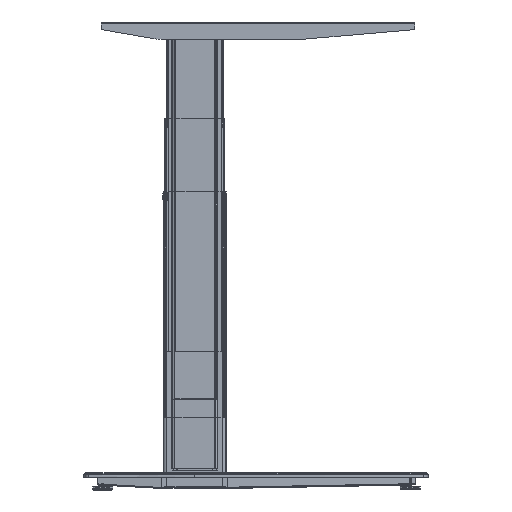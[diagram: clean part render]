
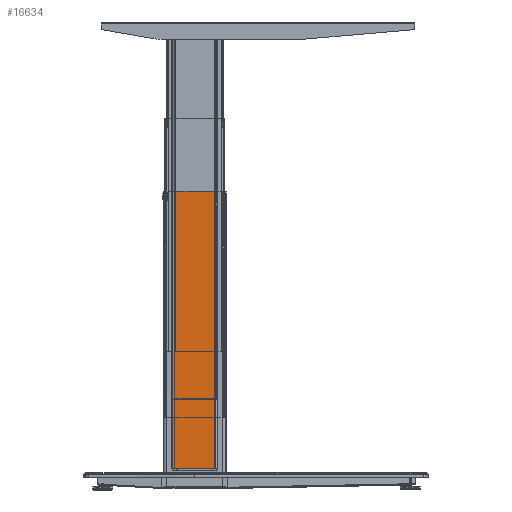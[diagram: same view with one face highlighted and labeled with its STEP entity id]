
A CAD part, left-side view. The second image highlights one B-rep face of the part: STEP entity #16634.
In plain terms, the highlighted planar face has unit normal (-1, 0, 0) as drawn and (0, -1, 0) by its records, which use the part's own axes.
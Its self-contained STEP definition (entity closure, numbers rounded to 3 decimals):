
#3594 = AXIS2_PLACEMENT_3D ( 'NONE', #64767, #90217, #40380 ) ;
#6785 = EDGE_CURVE ( 'NONE', #9239, #99984, #29275, .T. ) ;
#9239 = VERTEX_POINT ( 'NONE', #71696 ) ;
#15268 = DIRECTION ( 'NONE',  ( 0., 0., -1. ) ) ;
#16634 = ADVANCED_FACE ( 'NONE', ( #29887 ), #81826, .T. ) ;
#17750 = LINE ( 'NONE', #70923, #30758 ) ;
#24173 = CARTESIAN_POINT ( 'NONE',  ( -40., 1.75, 37. ) ) ;
#24518 = VECTOR ( 'NONE', #48755, 1000. ) ;
#25259 = ORIENTED_EDGE ( 'NONE', *, *, #37518, .F. ) ;
#29275 = LINE ( 'NONE', #24173, #78723 ) ;
#29887 = FACE_OUTER_BOUND ( 'NONE', #88576, .T. ) ;
#30758 = VECTOR ( 'NONE', #15268, 1000. ) ;
#31543 = LINE ( 'NONE', #49288, #62728 ) ;
#31735 = CARTESIAN_POINT ( 'NONE',  ( -39.49, 1.75, -88.017 ) ) ;
#37518 = EDGE_CURVE ( 'NONE', #101376, #9239, #17750, .T. ) ;
#39875 = VERTEX_POINT ( 'NONE', #89669 ) ;
#40380 = DIRECTION ( 'NONE',  ( 0., 0., 1. ) ) ;
#41260 = CARTESIAN_POINT ( 'NONE',  ( -39.49, 1.75, 37. ) ) ;
#43720 = EDGE_CURVE ( 'NONE', #99984, #39875, #90902, .T. ) ;
#48148 = DIRECTION ( 'NONE',  ( -1., 0., 0. ) ) ;
#48755 = DIRECTION ( 'NONE',  ( 0., 0., 1. ) ) ;
#48808 = ORIENTED_EDGE ( 'NONE', *, *, #6785, .F. ) ;
#49288 = CARTESIAN_POINT ( 'NONE',  ( -40., 1.75, 585. ) ) ;
#62728 = VECTOR ( 'NONE', #66788, 1000. ) ;
#64767 = CARTESIAN_POINT ( 'NONE',  ( -40., 1.75, -88.017 ) ) ;
#65627 = EDGE_CURVE ( 'NONE', #101376, #39875, #31543, .T. ) ;
#66788 = DIRECTION ( 'NONE',  ( -1., 0., 0. ) ) ;
#66965 = ORIENTED_EDGE ( 'NONE', *, *, #43720, .F. ) ;
#70923 = CARTESIAN_POINT ( 'NONE',  ( 39.49, 1.75, -88.017 ) ) ;
#71696 = CARTESIAN_POINT ( 'NONE',  ( 39.49, 1.75, 37. ) ) ;
#78723 = VECTOR ( 'NONE', #48148, 1000. ) ;
#81826 = PLANE ( 'NONE',  #3594 ) ;
#86436 = ORIENTED_EDGE ( 'NONE', *, *, #65627, .T. ) ;
#88576 = EDGE_LOOP ( 'NONE', ( #86436, #66965, #48808, #25259 ) ) ;
#89669 = CARTESIAN_POINT ( 'NONE',  ( -39.49, 1.75, 585. ) ) ;
#90217 = DIRECTION ( 'NONE',  ( 0., -1., 0. ) ) ;
#90902 = LINE ( 'NONE', #31735, #24518 ) ;
#92437 = CARTESIAN_POINT ( 'NONE',  ( 39.49, 1.75, 585. ) ) ;
#99984 = VERTEX_POINT ( 'NONE', #41260 ) ;
#101376 = VERTEX_POINT ( 'NONE', #92437 ) ;
